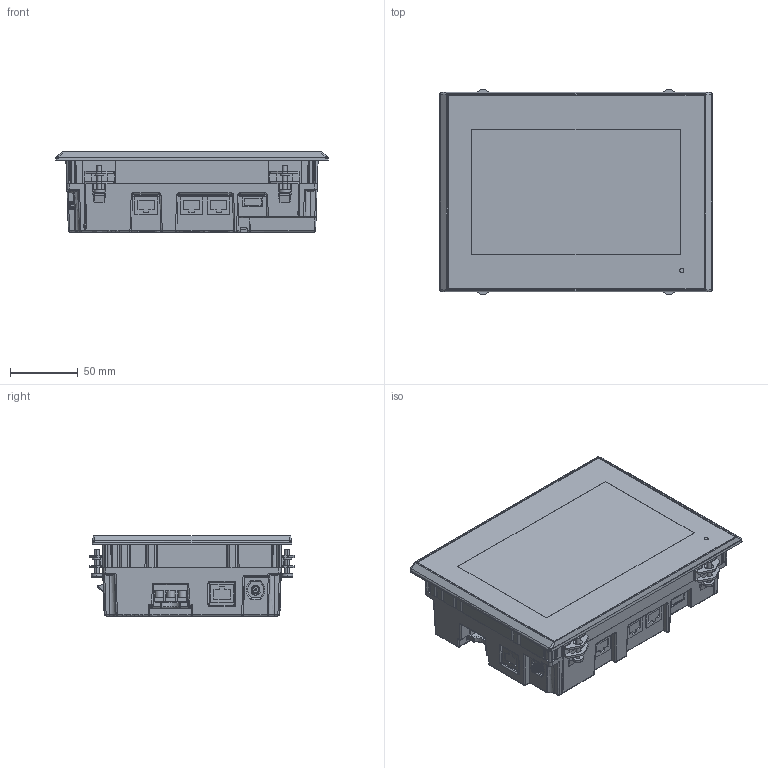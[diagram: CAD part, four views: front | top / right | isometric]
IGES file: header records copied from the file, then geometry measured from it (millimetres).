
Start section:  PTC IGES file: v9070iwrld_3d-data.igs
Global section: file name: v9070iwrld_3d-data.igs; native system: Pro/ENGINEER by Parametric Technology Corporation; preprocessor: 2011330; author: ichinose; organization: Unknown; date: 20150330.105405; units: millimetre
Bounding box: 201.6 x 151.6 x 59.1 mm (x, y, z)
Surface area: 111915 mm2 (no closed solid volume)
Topology: 0 solids, 0 shells, 1898 faces, 10084 edges, 10081 vertices
Faces by surface type: bspline 1342, revolution 556
